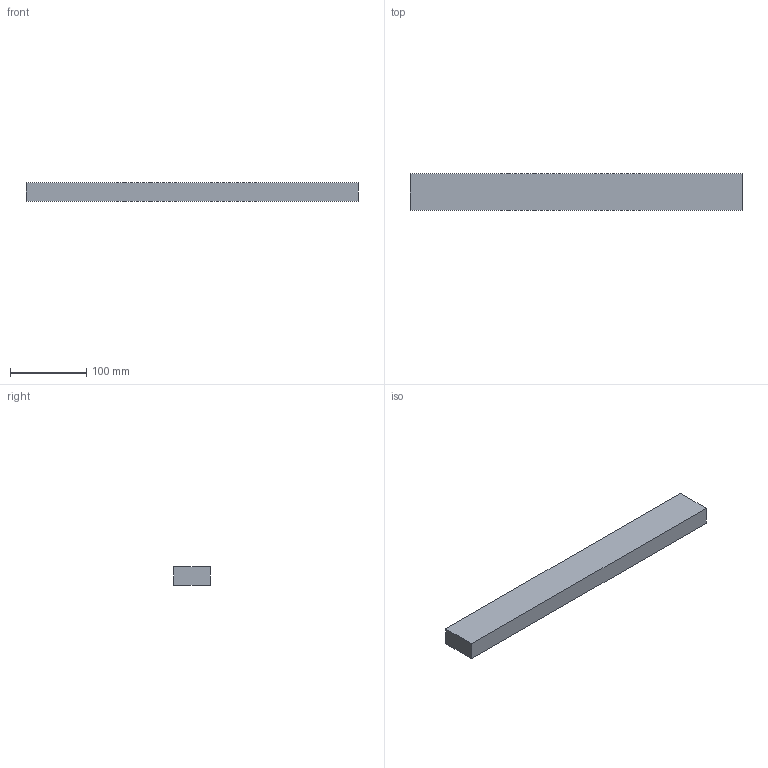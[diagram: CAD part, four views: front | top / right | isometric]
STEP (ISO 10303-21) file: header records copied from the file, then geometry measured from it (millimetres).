
FILE_DESCRIPTION (( 'STEP AP203' ), '1' );
FILE_NAME ('Tasseau_440_Deflecteur.STEP', '2026-06-24T07:29:50', ( '' ), ( '' ), 'SwSTEP 2.0', 'SolidWorks 2024', '' );
FILE_SCHEMA (( 'CONFIG_CONTROL_DESIGN' ));
Length unit declared in the file: millimetre
Products named in the file (1): Tasseau_440_Deflecteur
Bounding box: 435 x 48 x 24 mm (x, y, z)
Volume: 501120 mm3; surface area: 64944 mm2
Topology: 1 solids, 1 shells, 6 faces, 12 edges, 8 vertices
Faces by surface type: plane 6
Entity records: 231 total; most frequent: CARTESIAN_POINT 27, DIRECTION 26, ORIENTED_EDGE 24, VECTOR 12, EDGE_CURVE 12, LINE 12, PERSON_AND_ORGANIZATION 8, VERTEX_POINT 8
